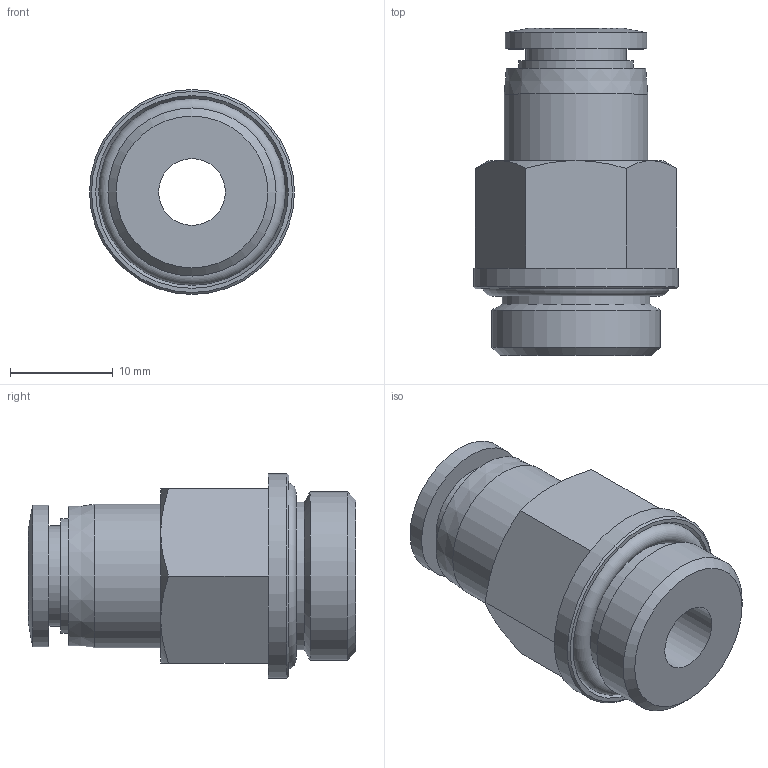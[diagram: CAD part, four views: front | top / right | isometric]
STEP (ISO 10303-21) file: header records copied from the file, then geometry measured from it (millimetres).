
FILE_DESCRIPTION((''),'2;1');
FILE_NAME('D:\INVENTOR\[New Inventor]\CDC Products 3D Ass''y\Stop Fittings\G\SPC-G\SPC08-G03.stp','2009-02-13T13:31:58',('Microsoft'),(''),'Autodesk Inventor 2008','Autodesk Inventor 2008','');
FILE_SCHEMA(('AUTOMOTIVE_DESIGN { 1 0 10303 214 1 1 1 1 }'));
Length unit declared in the file: millimetre
Products named in the file (1): SPC08-G03
Bounding box: 20 x 31.9 x 20 mm (x, y, z)
Volume: 4924.3 mm3; surface area: 3480 mm2
Topology: 2 solids, 2 shells, 42 faces, 80 edges, 47 vertices
Faces by surface type: plane 17, cone 12, cylinder 10, torus 3
Full cylindrical faces by diameter (mm): 6.5 x1, 8.3 x1, 9.8 x1, 11.2 x1, 13.8 x1, 14 x1, 14.4 x2, 16.4 x1, 20 x1
Entity records: 956 total; most frequent: CARTESIAN_POINT 171, DIRECTION 168, ORIENTED_EDGE 118, AXIS2_PLACEMENT_3D 78, EDGE_LOOP 72, EDGE_CURVE 59, VERTEX_POINT 45, FACE_OUTER_BOUND 42
